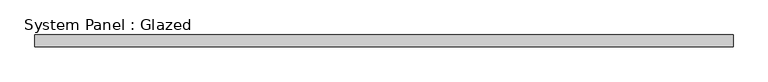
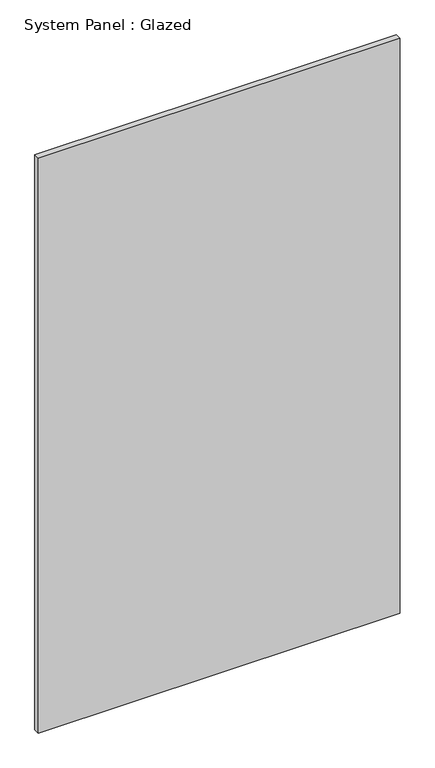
"""IFC4 building model written with IfcOpenShell, lengths in millimetres: plate geometry, System Panel : Glazed."""

from ifc_helpers import new_model, si_unit, origin, origin_with_axes, place, context, project, spatial, polyline, outline, extrude, source, transform, mapped, element, save


def system_panel_glazed_adc96db5(model_context):
    return source(origin(), model_context, "Body", "SweptSolid", [
        extrude(outline(polyline([(742.95, 19.05), (-742.95, 19.05), (-742.95, 44.45), (742.95, 44.45), (742.95, 19.05)])), origin_with_axes(), (0.0, 0.0, 1.0), 2495.55),
    ])


if __name__ == "__main__":
    model = new_model("IFC4")
    model_context = context("Model", 3, world=origin())
    ifc_project = project(units=[si_unit("LENGTHUNIT", "METRE", prefix="MILLI")], contexts=[model_context])
    site = spatial("IfcSite", under=ifc_project)
    building = spatial("IfcBuilding", under=site)
    placement = place(None, origin())
    system_panel_glazed_shape = system_panel_glazed_adc96db5(model_context)
    element("IfcPlate", 1, ObjectType="System Panel : Glazed", at=placement, inside=building, context=model_context, shape_type="MappedRepresentation", body=[
        mapped(system_panel_glazed_shape, transform((0.0, 0.0, 0.0), x_axis=(1.0, 0.0, 0.0), y_axis=(0.0, 1.0, 0.0), z_axis=(0.0, 0.0, 1.0))),
    ])
    save(model, "model.ifc")
